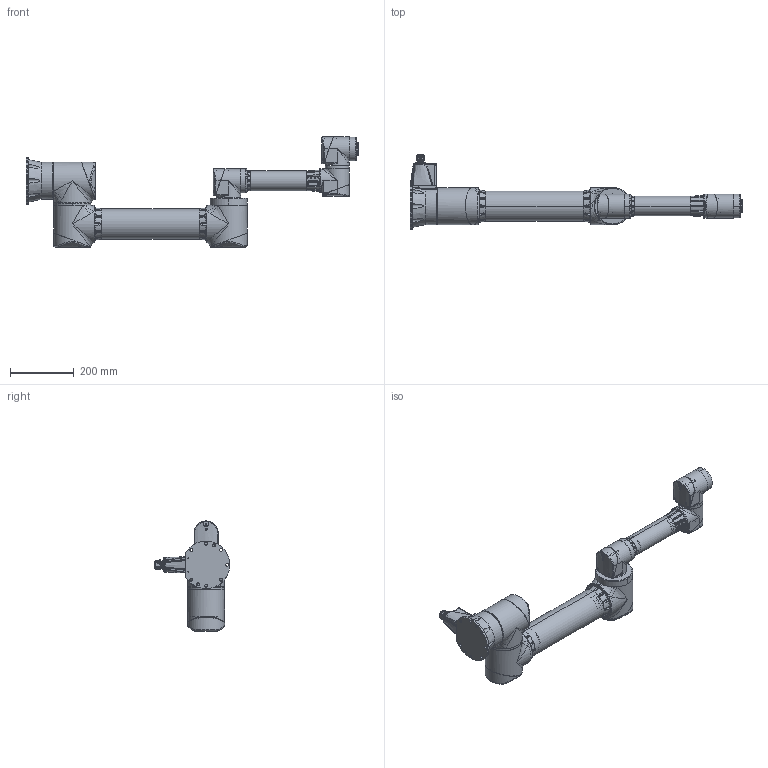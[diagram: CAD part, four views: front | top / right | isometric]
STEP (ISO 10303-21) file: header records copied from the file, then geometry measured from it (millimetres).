
FILE_DESCRIPTION((''),'2;1');
FILE_NAME('ZRA_0507N_ASM','2022-11-10T09:23:44',('ChoSeongHee'),(''),'CREO PARAMETRIC BY PTC INC, 2020354','CREO PARAMETRIC BY PTC INC, 2020354','');
FILE_SCHEMA(('CONFIG_CONTROL_DESIGN'));
Products named in the file (25): FLANGE_B; HOLDER_M; COVER_M; MODULE_M_ASM; RING_M; ARM1_PIPE; FLANGE_ARM1; ARM1_ASM; FLANGE_J3; HOLDER_S; COVER_S; MODULE_S_ASM; PIPE2; FLANGE_J4; FLANGE_J5; PLATE; PORT; ARM2_ASM; FLANGE_E; RING_S; COVER_J; CABLE; PLATE_J; COVER_J_ASM; ZRA_0507N_ASM
Assembly tree (29 placements, depth 3):
  ZRA_0507N_ASM
    FLANGE_B
    MODULE_M_ASM  x3
      HOLDER_M
      COVER_M
    RING_M
    ARM1_ASM
      ARM1_PIPE
      FLANGE_ARM1  x2
    FLANGE_J3
    MODULE_S_ASM  x3
      HOLDER_S
      COVER_S
    ARM2_ASM
      PIPE2
      FLANGE_J4
      FLANGE_J5
      PLATE
      PORT
    FLANGE_E
    RING_S
    COVER_J_ASM
      COVER_J
      CABLE
      PLATE_J
Bounding box: 1040.1 x 237.3 x 344.89 mm (x, y, z)
Volume: 12560471.8 mm3; surface area: 944100.8 mm2
Topology: 28 solids, 212 shells, 3861 faces, 10478 edges, 6914 vertices
Faces by surface type: cylinder 1409, plane 1297, bspline 650, torus 269, cone 210, sphere 18, extrusion 8
Entity records: 146255 total; most frequent: CARTESIAN_POINT 72340, ORIENTED_EDGE 16264, DIRECTION 13894, EDGE_CURVE 8266, VERTEX_POINT 5414, AXIS2_PLACEMENT_3D 5218, VECTOR 3458, LINE 3450
